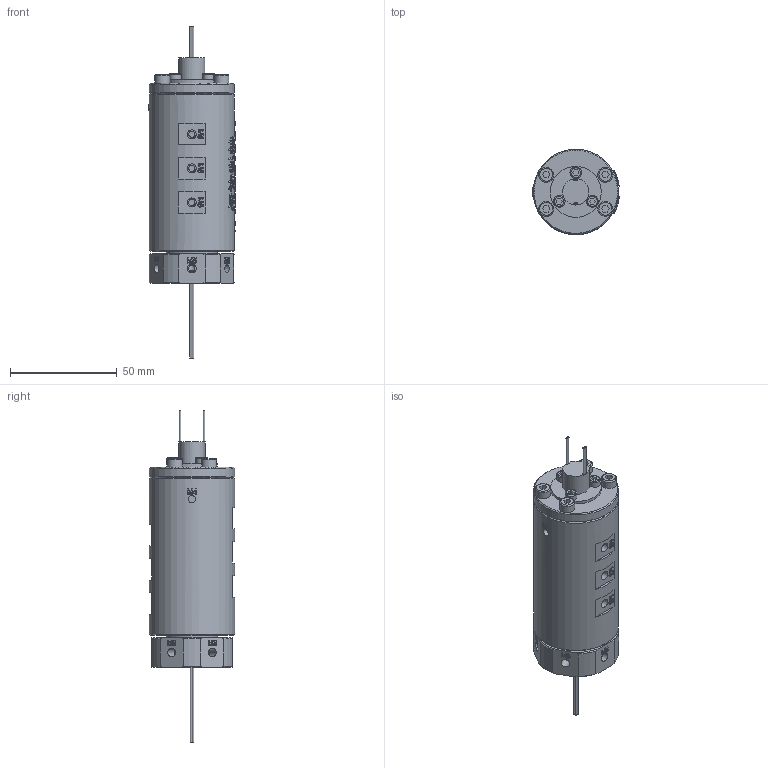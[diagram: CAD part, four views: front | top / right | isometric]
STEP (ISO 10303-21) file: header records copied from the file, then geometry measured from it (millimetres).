
FILE_DESCRIPTION(/* description */ (''),/* implementation_level */ '2;1');
FILE_NAME(/* name */ 'HQ06005-04M.stp',/* time_stamp */ '2025-09-01T15:55:49+08:00',/* author */ (''),/* organization */ (''),/* preprocessor_version */ 'ST-DEVELOPER v16.7',/* originating_system */ 'SIEMENS PLM Software NX 12.0',/* authorisation */ '');
FILE_SCHEMA (('AUTOMOTIVE_DESIGN { 1 0 10303 214 3 1 1 1 }'));
Products named in the file (1): AdmiB44865CDwd6v
Bounding box: 40.6 x 40 x 155.8 mm (x, y, z)
Volume: 116339 mm3; surface area: 21889.6 mm2
Topology: 1 solids, 9 shells, 1393 faces, 3750 edges, 2496 vertices
Faces by surface type: plane 672, extrusion 521, cylinder 106, bspline 58, cone 29, torus 7
Full cylindrical faces by diameter (mm): 0.8 x8, 3 x15, 3.4 x9, 4 x10, 4.1 x6, 4.2 x18, 5 x1, 5.5 x3, 6 x1, 7 x4, 12.4 x1, 23.9 x1, 24 x1, 32 x1, 40 x2
Entity records: 51087 total; most frequent: CARTESIAN_POINT 21207, ORIENTED_EDGE 7164, DIRECTION 3823, EDGE_CURVE 3582, B_SPLINE_CURVE_WITH_KNOTS 2814, VERTEX_POINT 2439, EDGE_LOOP 1649, VECTOR 1427
